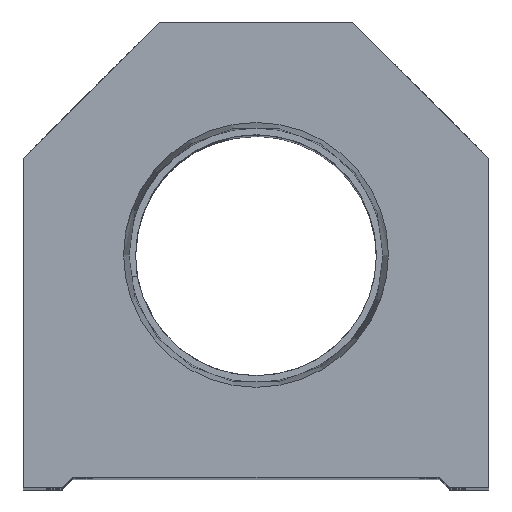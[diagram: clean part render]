
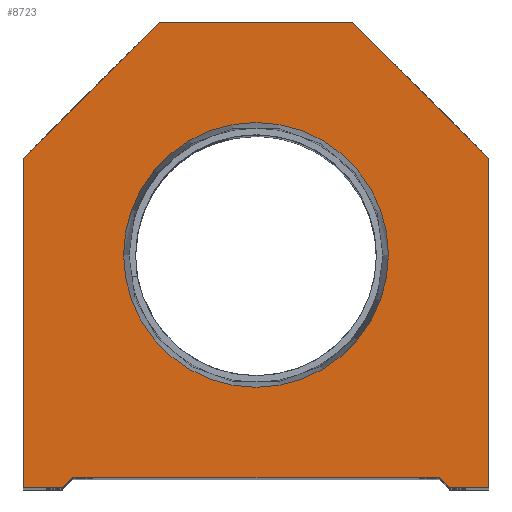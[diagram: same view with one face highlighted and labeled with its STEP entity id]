
A CAD part, top view. The second image highlights one B-rep face of the part: STEP entity #8723.
In plain terms, the highlighted planar face has unit normal (0, 0, 1).
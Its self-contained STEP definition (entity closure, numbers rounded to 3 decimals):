
#69 = ORIENTED_EDGE ( 'NONE', *, *, #17104, .T. ) ;
#70 = CARTESIAN_POINT ( 'NONE',  ( -22.25, 31.5, 0. ) ) ;
#73 = AXIS2_PLACEMENT_3D ( 'NONE', #2663, #15997, #9488 ) ;
#378 = CIRCLE ( 'NONE', #4866, 12.647 ) ;
#694 = DIRECTION ( 'NONE',  ( 1., 0., 0. ) ) ;
#899 = CARTESIAN_POINT ( 'NONE',  ( -18.5, 0., 0. ) ) ;
#1126 = VERTEX_POINT ( 'NONE', #1455 ) ;
#1324 = VERTEX_POINT ( 'NONE', #2236 ) ;
#1344 = VECTOR ( 'NONE', #16768, 1000. ) ;
#1455 = CARTESIAN_POINT ( 'NONE',  ( 17.5, 1., 0. ) ) ;
#1494 = VECTOR ( 'NONE', #4171, 1000. ) ;
#1735 = CARTESIAN_POINT ( 'NONE',  ( -9.25, 44.5, 0. ) ) ;
#1857 = DIRECTION ( 'NONE',  ( 0., 0., 1. ) ) ;
#1858 = EDGE_LOOP ( 'NONE', ( #5253, #3345, #12132, #5918, #9995, #16568, #8815, #69, #3249, #12522 ) ) ;
#2100 = EDGE_CURVE ( 'NONE', #16056, #11468, #15383, .T. ) ;
#2135 = CARTESIAN_POINT ( 'NONE',  ( -17.5, 1., 0. ) ) ;
#2207 = CARTESIAN_POINT ( 'NONE',  ( 12.647, 22.25, 0. ) ) ;
#2236 = CARTESIAN_POINT ( 'NONE',  ( -12.647, 22.25, 0. ) ) ;
#2285 = DIRECTION ( 'NONE',  ( 0., 0., 1. ) ) ;
#2303 = LINE ( 'NONE', #14086, #1344 ) ;
#2663 = CARTESIAN_POINT ( 'NONE',  ( 0., 0., 0. ) ) ;
#2743 = EDGE_CURVE ( 'NONE', #13775, #16191, #2303, .T. ) ;
#2834 = FACE_BOUND ( 'NONE', #11495, .T. ) ;
#2936 = CARTESIAN_POINT ( 'NONE',  ( 9.25, 44.5, 0. ) ) ;
#3249 = ORIENTED_EDGE ( 'NONE', *, *, #9786, .T. ) ;
#3345 = ORIENTED_EDGE ( 'NONE', *, *, #8945, .T. ) ;
#3433 = LINE ( 'NONE', #9090, #6532 ) ;
#3457 = CARTESIAN_POINT ( 'NONE',  ( 17.5, 0., 0. ) ) ;
#3532 = DIRECTION ( 'NONE',  ( 1., 0., 0. ) ) ;
#3537 = VERTEX_POINT ( 'NONE', #2135 ) ;
#3816 = DIRECTION ( 'NONE',  ( 0., -1., 0. ) ) ;
#4050 = EDGE_CURVE ( 'NONE', #1126, #16056, #9807, .T. ) ;
#4171 = DIRECTION ( 'NONE',  ( 1., 0., 0. ) ) ;
#4311 = DIRECTION ( 'NONE',  ( 0.707, -0.707, 0. ) ) ;
#4466 = EDGE_CURVE ( 'NONE', #16017, #1324, #9215, .T. ) ;
#4494 = CARTESIAN_POINT ( 'NONE',  ( 0., 22.25, 0. ) ) ;
#4866 = AXIS2_PLACEMENT_3D ( 'NONE', #4494, #1857, #12432 ) ;
#4992 = LINE ( 'NONE', #13099, #15222 ) ;
#5253 = ORIENTED_EDGE ( 'NONE', *, *, #13587, .T. ) ;
#5314 = VECTOR ( 'NONE', #9513, 1000. ) ;
#5320 = EDGE_CURVE ( 'NONE', #11468, #13775, #9334, .T. ) ;
#5918 = ORIENTED_EDGE ( 'NONE', *, *, #4050, .T. ) ;
#5959 = VECTOR ( 'NONE', #3816, 1000. ) ;
#6303 = CARTESIAN_POINT ( 'NONE',  ( 0., 22.25, 0. ) ) ;
#6417 = CARTESIAN_POINT ( 'NONE',  ( -22.25, 0., 0. ) ) ;
#6532 = VECTOR ( 'NONE', #694, 1000. ) ;
#6625 = CARTESIAN_POINT ( 'NONE',  ( 22.25, 0., 0. ) ) ;
#7152 = ORIENTED_EDGE ( 'NONE', *, *, #9003, .F. ) ;
#7185 = CARTESIAN_POINT ( 'NONE',  ( 9.25, 9.25, 0. ) ) ;
#7905 = VECTOR ( 'NONE', #12090, 1000. ) ;
#7908 = PLANE ( 'NONE',  #73 ) ;
#8047 = CARTESIAN_POINT ( 'NONE',  ( 18.5, 0., 0. ) ) ;
#8681 = EDGE_CURVE ( 'NONE', #3537, #1126, #10956, .T. ) ;
#8723 = ADVANCED_FACE ( 'NONE', ( #2834, #13406 ), #7908, .T. ) ;
#8771 = DIRECTION ( 'NONE',  ( 1., 0., 0. ) ) ;
#8815 = ORIENTED_EDGE ( 'NONE', *, *, #2743, .T. ) ;
#8908 = DIRECTION ( 'NONE',  ( -1., 0., 0. ) ) ;
#8945 = EDGE_CURVE ( 'NONE', #11208, #3537, #9195, .T. ) ;
#9003 = EDGE_CURVE ( 'NONE', #1324, #16017, #378, .T. ) ;
#9041 = LINE ( 'NONE', #6417, #5959 ) ;
#9090 = CARTESIAN_POINT ( 'NONE',  ( -17.5, 0., 0. ) ) ;
#9195 = LINE ( 'NONE', #14507, #7905 ) ;
#9215 = CIRCLE ( 'NONE', #13685, 12.647 ) ;
#9307 = CARTESIAN_POINT ( 'NONE',  ( -17.5, 1., 0. ) ) ;
#9334 = LINE ( 'NONE', #6625, #5314 ) ;
#9488 = DIRECTION ( 'NONE',  ( 1., 0., 0. ) ) ;
#9513 = DIRECTION ( 'NONE',  ( 0., 1., 0. ) ) ;
#9786 = EDGE_CURVE ( 'NONE', #15351, #14389, #4992, .T. ) ;
#9807 = LINE ( 'NONE', #7185, #16140 ) ;
#9977 = VECTOR ( 'NONE', #8771, 1000. ) ;
#9995 = ORIENTED_EDGE ( 'NONE', *, *, #2100, .T. ) ;
#10252 = CARTESIAN_POINT ( 'NONE',  ( 22.25, 0., 0. ) ) ;
#10956 = LINE ( 'NONE', #9307, #1494 ) ;
#11208 = VERTEX_POINT ( 'NONE', #899 ) ;
#11468 = VERTEX_POINT ( 'NONE', #10252 ) ;
#11495 = EDGE_LOOP ( 'NONE', ( #16825, #7152 ) ) ;
#12090 = DIRECTION ( 'NONE',  ( 0.707, 0.707, 0. ) ) ;
#12132 = ORIENTED_EDGE ( 'NONE', *, *, #8681, .T. ) ;
#12432 = DIRECTION ( 'NONE',  ( 1., 0., 0. ) ) ;
#12522 = ORIENTED_EDGE ( 'NONE', *, *, #12981, .T. ) ;
#12981 = EDGE_CURVE ( 'NONE', #14389, #13197, #9041, .T. ) ;
#13099 = CARTESIAN_POINT ( 'NONE',  ( -22.25, 31.5, 0. ) ) ;
#13197 = VERTEX_POINT ( 'NONE', #14424 ) ;
#13406 = FACE_OUTER_BOUND ( 'NONE', #1858, .T. ) ;
#13585 = VECTOR ( 'NONE', #8908, 1000. ) ;
#13587 = EDGE_CURVE ( 'NONE', #13197, #11208, #3433, .T. ) ;
#13685 = AXIS2_PLACEMENT_3D ( 'NONE', #6303, #2285, #3532 ) ;
#13775 = VERTEX_POINT ( 'NONE', #15095 ) ;
#14086 = CARTESIAN_POINT ( 'NONE',  ( 22.25, 31.5, 0. ) ) ;
#14389 = VERTEX_POINT ( 'NONE', #70 ) ;
#14424 = CARTESIAN_POINT ( 'NONE',  ( -22.25, 0., 0. ) ) ;
#14507 = CARTESIAN_POINT ( 'NONE',  ( -9.25, 9.25, 0. ) ) ;
#15095 = CARTESIAN_POINT ( 'NONE',  ( 22.25, 31.5, 0. ) ) ;
#15222 = VECTOR ( 'NONE', #15774, 1000. ) ;
#15351 = VERTEX_POINT ( 'NONE', #1735 ) ;
#15383 = LINE ( 'NONE', #3457, #9977 ) ;
#15774 = DIRECTION ( 'NONE',  ( -0.707, -0.707, 0. ) ) ;
#15997 = DIRECTION ( 'NONE',  ( 0., 0., 1. ) ) ;
#16017 = VERTEX_POINT ( 'NONE', #2207 ) ;
#16056 = VERTEX_POINT ( 'NONE', #8047 ) ;
#16140 = VECTOR ( 'NONE', #4311, 1000. ) ;
#16191 = VERTEX_POINT ( 'NONE', #2936 ) ;
#16568 = ORIENTED_EDGE ( 'NONE', *, *, #5320, .T. ) ;
#16768 = DIRECTION ( 'NONE',  ( -0.707, 0.707, 0. ) ) ;
#16821 = CARTESIAN_POINT ( 'NONE',  ( 9.25, 44.5, 0. ) ) ;
#16825 = ORIENTED_EDGE ( 'NONE', *, *, #4466, .F. ) ;
#17082 = LINE ( 'NONE', #16821, #13585 ) ;
#17104 = EDGE_CURVE ( 'NONE', #16191, #15351, #17082, .T. ) ;
